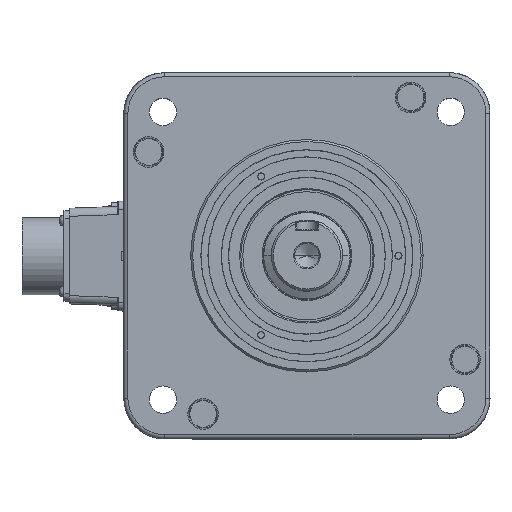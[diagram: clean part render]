
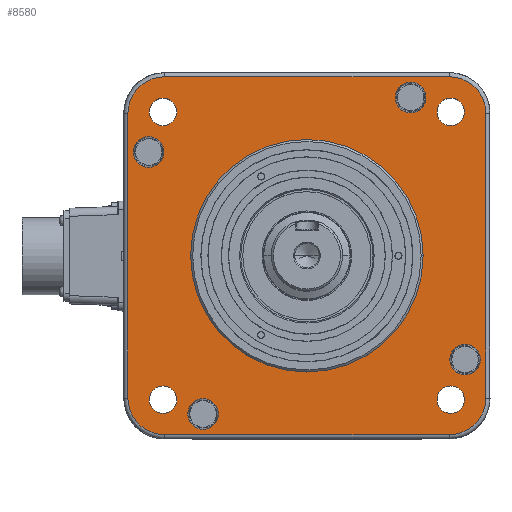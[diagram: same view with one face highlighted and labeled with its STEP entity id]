
A CAD part, top view. The second image highlights one B-rep face of the part: STEP entity #8580.
In plain terms, the highlighted planar face has unit normal (0, 0, 1).
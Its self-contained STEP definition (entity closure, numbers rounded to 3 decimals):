
#85=CARTESIAN_POINT('',(-69.969,69.969,20.));
#86=DIRECTION('',(0.,0.,-1.));
#87=DIRECTION('',(-1.,0.,0.));
#88=AXIS2_PLACEMENT_3D('',#85,#86,#87);
#90=CARTESIAN_POINT('',(69.969,69.969,20.));
#91=DIRECTION('',(0.,0.,-1.));
#92=DIRECTION('',(0.,1.,0.));
#93=AXIS2_PLACEMENT_3D('',#90,#91,#92);
#95=CARTESIAN_POINT('',(69.969,-69.969,20.));
#96=DIRECTION('',(0.,0.,-1.));
#97=DIRECTION('',(1.,0.,0.));
#98=AXIS2_PLACEMENT_3D('',#95,#96,#97);
#100=CARTESIAN_POINT('',(-69.969,-69.969,20.));
#101=DIRECTION('',(0.,0.,-1.));
#102=DIRECTION('',(0.,-1.,0.));
#103=AXIS2_PLACEMENT_3D('',#100,#101,#102);
#105=CARTESIAN_POINT('',(0.,0.,20.));
#106=DIRECTION('',(0.,0.,1.));
#107=DIRECTION('',(-1.,0.,0.));
#108=AXIS2_PLACEMENT_3D('',#105,#106,#107);
#110=CARTESIAN_POINT('',(0.,0.,20.));
#111=DIRECTION('',(0.,0.,1.));
#112=DIRECTION('',(1.,0.,0.));
#113=AXIS2_PLACEMENT_3D('',#110,#111,#112);
#115=CARTESIAN_POINT('',(-70.711,70.711,20.));
#116=DIRECTION('',(0.,0.,1.));
#117=DIRECTION('',(1.,0.,0.));
#118=AXIS2_PLACEMENT_3D('',#115,#116,#117);
#120=CARTESIAN_POINT('',(-70.711,70.711,20.));
#121=DIRECTION('',(0.,0.,1.));
#122=DIRECTION('',(-1.,0.,0.));
#123=AXIS2_PLACEMENT_3D('',#120,#121,#122);
#125=CARTESIAN_POINT('',(70.711,70.711,20.));
#126=DIRECTION('',(0.,0.,1.));
#127=DIRECTION('',(1.,0.,0.));
#128=AXIS2_PLACEMENT_3D('',#125,#126,#127);
#130=CARTESIAN_POINT('',(70.711,70.711,20.));
#131=DIRECTION('',(0.,0.,1.));
#132=DIRECTION('',(-1.,0.,0.));
#133=AXIS2_PLACEMENT_3D('',#130,#131,#132);
#135=CARTESIAN_POINT('',(70.711,-70.711,20.));
#136=DIRECTION('',(0.,0.,1.));
#137=DIRECTION('',(1.,0.,0.));
#138=AXIS2_PLACEMENT_3D('',#135,#136,#137);
#140=CARTESIAN_POINT('',(70.711,-70.711,20.));
#141=DIRECTION('',(0.,0.,1.));
#142=DIRECTION('',(-1.,0.,0.));
#143=AXIS2_PLACEMENT_3D('',#140,#141,#142);
#145=CARTESIAN_POINT('',(-70.711,-70.711,20.));
#146=DIRECTION('',(0.,0.,1.));
#147=DIRECTION('',(1.,0.,0.));
#148=AXIS2_PLACEMENT_3D('',#145,#146,#147);
#150=CARTESIAN_POINT('',(-70.711,-70.711,20.));
#151=DIRECTION('',(0.,0.,1.));
#152=DIRECTION('',(-1.,0.,0.));
#153=AXIS2_PLACEMENT_3D('',#150,#151,#152);
#155=CARTESIAN_POINT('',(51.,77.769,20.));
#156=DIRECTION('',(0.,0.,1.));
#157=DIRECTION('',(1.,0.,0.));
#158=AXIS2_PLACEMENT_3D('',#155,#156,#157);
#160=CARTESIAN_POINT('',(51.,77.769,20.));
#161=DIRECTION('',(0.,0.,1.));
#162=DIRECTION('',(-1.,0.,0.));
#163=AXIS2_PLACEMENT_3D('',#160,#161,#162);
#165=CARTESIAN_POINT('',(-77.769,51.,20.));
#166=DIRECTION('',(0.,0.,1.));
#167=DIRECTION('',(1.,0.,0.));
#168=AXIS2_PLACEMENT_3D('',#165,#166,#167);
#170=CARTESIAN_POINT('',(-77.769,51.,20.));
#171=DIRECTION('',(0.,0.,1.));
#172=DIRECTION('',(-1.,0.,0.));
#173=AXIS2_PLACEMENT_3D('',#170,#171,#172);
#175=CARTESIAN_POINT('',(-51.,-77.769,20.));
#176=DIRECTION('',(0.,0.,1.));
#177=DIRECTION('',(1.,0.,0.));
#178=AXIS2_PLACEMENT_3D('',#175,#176,#177);
#180=CARTESIAN_POINT('',(-51.,-77.769,20.));
#181=DIRECTION('',(0.,0.,1.));
#182=DIRECTION('',(-1.,0.,0.));
#183=AXIS2_PLACEMENT_3D('',#180,#181,#182);
#185=CARTESIAN_POINT('',(77.769,-51.,20.));
#186=DIRECTION('',(0.,0.,1.));
#187=DIRECTION('',(1.,0.,0.));
#188=AXIS2_PLACEMENT_3D('',#185,#186,#187);
#190=CARTESIAN_POINT('',(77.769,-51.,20.));
#191=DIRECTION('',(0.,0.,1.));
#192=DIRECTION('',(-1.,0.,0.));
#193=AXIS2_PLACEMENT_3D('',#190,#191,#192);
#195=DIRECTION('',(0.,-1.,0.));
#196=VECTOR('',#195,139.937);
#197=CARTESIAN_POINT('',(-87.969,69.969,20.));
#198=LINE('',#197,#196);
#798=DIRECTION('',(1.,0.,0.));
#799=VECTOR('',#798,139.937);
#800=CARTESIAN_POINT('',(-69.969,-87.969,20.));
#801=LINE('',#800,#799);
#1420=DIRECTION('',(0.,1.,0.));
#1421=VECTOR('',#1420,139.937);
#1422=CARTESIAN_POINT('',(87.969,-69.969,20.));
#1423=LINE('',#1422,#1421);
#1438=DIRECTION('',(-1.,0.,0.));
#1439=VECTOR('',#1438,139.937);
#1440=CARTESIAN_POINT('',(69.969,87.969,20.));
#1441=LINE('',#1440,#1439);
#6746=CARTESIAN_POINT('',(57.15,0.,20.));
#6747=VERTEX_POINT('',#6746);
#6748=CARTESIAN_POINT('',(-57.15,0.,20.));
#6749=VERTEX_POINT('',#6748);
#6750=CARTESIAN_POINT('',(-87.969,69.969,20.));
#6751=CARTESIAN_POINT('',(-69.969,87.969,20.));
#6752=VERTEX_POINT('',#6750);
#6753=VERTEX_POINT('',#6751);
#6754=CARTESIAN_POINT('',(69.969,87.969,20.));
#6755=CARTESIAN_POINT('',(87.969,69.969,20.));
#6756=VERTEX_POINT('',#6754);
#6757=VERTEX_POINT('',#6755);
#6758=CARTESIAN_POINT('',(87.969,-69.969,20.));
#6759=CARTESIAN_POINT('',(69.969,-87.969,20.));
#6760=VERTEX_POINT('',#6758);
#6761=VERTEX_POINT('',#6759);
#6762=CARTESIAN_POINT('',(-69.969,-87.969,
20.));
#6763=CARTESIAN_POINT('',(-87.969,-69.969,
20.));
#6764=VERTEX_POINT('',#6762);
#6765=VERTEX_POINT('',#6763);
#6766=CARTESIAN_POINT('',(-63.961,70.711,20.));
#6767=CARTESIAN_POINT('',(-77.461,70.711,20.));
#6768=VERTEX_POINT('',#6766);
#6769=VERTEX_POINT('',#6767);
#6770=CARTESIAN_POINT('',(77.461,70.711,20.));
#6771=CARTESIAN_POINT('',(63.961,70.711,20.));
#6772=VERTEX_POINT('',#6770);
#6773=VERTEX_POINT('',#6771);
#6774=CARTESIAN_POINT('',(77.461,-70.711,20.));
#6775=CARTESIAN_POINT('',(63.961,-70.711,20.));
#6776=VERTEX_POINT('',#6774);
#6777=VERTEX_POINT('',#6775);
#6778=CARTESIAN_POINT('',(-63.961,-70.711,20.));
#6779=CARTESIAN_POINT('',(-77.461,-70.711,20.));
#6780=VERTEX_POINT('',#6778);
#6781=VERTEX_POINT('',#6779);
#6782=CARTESIAN_POINT('',(58.524,77.769,20.));
#6783=CARTESIAN_POINT('',(43.476,77.769,20.));
#6784=VERTEX_POINT('',#6782);
#6785=VERTEX_POINT('',#6783);
#6786=CARTESIAN_POINT('',(-70.245,51.,20.));
#6787=CARTESIAN_POINT('',(-85.293,51.,20.));
#6788=VERTEX_POINT('',#6786);
#6789=VERTEX_POINT('',#6787);
#6790=CARTESIAN_POINT('',(-43.476,-77.769,20.));
#6791=CARTESIAN_POINT('',(-58.524,-77.769,20.));
#6792=VERTEX_POINT('',#6790);
#6793=VERTEX_POINT('',#6791);
#6794=CARTESIAN_POINT('',(85.293,-51.,20.));
#6795=CARTESIAN_POINT('',(70.245,-51.,20.));
#6796=VERTEX_POINT('',#6794);
#6797=VERTEX_POINT('',#6795);
#8505=CARTESIAN_POINT('',(0.,0.,20.));
#8506=DIRECTION('',(0.,0.,1.));
#8507=DIRECTION('',(-1.,0.,0.));
#8508=AXIS2_PLACEMENT_3D('',#8505,#8506,#8507);
#8509=PLANE('',#8508);
#8511=ORIENTED_EDGE('',*,*,#8510,.F.);
#8513=ORIENTED_EDGE('',*,*,#8512,.T.);
#8515=ORIENTED_EDGE('',*,*,#8514,.F.);
#8517=ORIENTED_EDGE('',*,*,#8516,.T.);
#8519=ORIENTED_EDGE('',*,*,#8518,.F.);
#8521=ORIENTED_EDGE('',*,*,#8520,.T.);
#8523=ORIENTED_EDGE('',*,*,#8522,.F.);
#8525=ORIENTED_EDGE('',*,*,#8524,.T.);
#8526=EDGE_LOOP('',(#8511,#8513,#8515,#8517,#8519,#8521,#8523,#8525));
#8527=FACE_OUTER_BOUND('',#8526,.F.);
#8528=ORIENTED_EDGE('',*,*,#8497,.T.);
#8529=ORIENTED_EDGE('',*,*,#8486,.T.);
#8530=EDGE_LOOP('',(#8528,#8529));
#8531=FACE_BOUND('',#8530,.F.);
#8533=ORIENTED_EDGE('',*,*,#8532,.T.);
#8535=ORIENTED_EDGE('',*,*,#8534,.T.);
#8536=EDGE_LOOP('',(#8533,#8535));
#8537=FACE_BOUND('',#8536,.F.);
#8539=ORIENTED_EDGE('',*,*,#8538,.T.);
#8541=ORIENTED_EDGE('',*,*,#8540,.T.);
#8542=EDGE_LOOP('',(#8539,#8541));
#8543=FACE_BOUND('',#8542,.F.);
#8545=ORIENTED_EDGE('',*,*,#8544,.T.);
#8547=ORIENTED_EDGE('',*,*,#8546,.T.);
#8548=EDGE_LOOP('',(#8545,#8547));
#8549=FACE_BOUND('',#8548,.F.);
#8551=ORIENTED_EDGE('',*,*,#8550,.T.);
#8553=ORIENTED_EDGE('',*,*,#8552,.T.);
#8554=EDGE_LOOP('',(#8551,#8553));
#8555=FACE_BOUND('',#8554,.F.);
#8557=ORIENTED_EDGE('',*,*,#8556,.T.);
#8559=ORIENTED_EDGE('',*,*,#8558,.T.);
#8560=EDGE_LOOP('',(#8557,#8559));
#8561=FACE_BOUND('',#8560,.F.);
#8563=ORIENTED_EDGE('',*,*,#8562,.T.);
#8565=ORIENTED_EDGE('',*,*,#8564,.T.);
#8566=EDGE_LOOP('',(#8563,#8565));
#8567=FACE_BOUND('',#8566,.F.);
#8569=ORIENTED_EDGE('',*,*,#8568,.T.);
#8571=ORIENTED_EDGE('',*,*,#8570,.T.);
#8572=EDGE_LOOP('',(#8569,#8571));
#8573=FACE_BOUND('',#8572,.F.);
#8575=ORIENTED_EDGE('',*,*,#8574,.T.);
#8577=ORIENTED_EDGE('',*,*,#8576,.T.);
#8578=EDGE_LOOP('',(#8575,#8577));
#8579=FACE_BOUND('',#8578,.F.);
#89=CIRCLE('',#88,18.);
#94=CIRCLE('',#93,18.);
#99=CIRCLE('',#98,18.);
#104=CIRCLE('',#103,18.);
#109=CIRCLE('',#108,57.15);
#114=CIRCLE('',#113,57.15);
#119=CIRCLE('',#118,6.75);
#124=CIRCLE('',#123,6.75);
#129=CIRCLE('',#128,6.75);
#134=CIRCLE('',#133,6.75);
#139=CIRCLE('',#138,6.75);
#144=CIRCLE('',#143,6.75);
#149=CIRCLE('',#148,6.75);
#154=CIRCLE('',#153,6.75);
#159=CIRCLE('',#158,7.524);
#164=CIRCLE('',#163,7.524);
#169=CIRCLE('',#168,7.524);
#174=CIRCLE('',#173,7.524);
#179=CIRCLE('',#178,7.524);
#184=CIRCLE('',#183,7.524);
#189=CIRCLE('',#188,7.524);
#194=CIRCLE('',#193,7.524);
#8486=EDGE_CURVE('',#6747,#6749,#114,.T.);
#8497=EDGE_CURVE('',#6749,#6747,#109,.T.);
#8510=EDGE_CURVE('',#6752,#6765,#198,.T.);
#8512=EDGE_CURVE('',#6752,#6753,#89,.T.);
#8514=EDGE_CURVE('',#6756,#6753,#1441,.T.);
#8516=EDGE_CURVE('',#6756,#6757,#94,.T.);
#8518=EDGE_CURVE('',#6760,#6757,#1423,.T.);
#8520=EDGE_CURVE('',#6760,#6761,#99,.T.);
#8522=EDGE_CURVE('',#6764,#6761,#801,.T.);
#8524=EDGE_CURVE('',#6764,#6765,#104,.T.);
#8532=EDGE_CURVE('',#6768,#6769,#119,.T.);
#8534=EDGE_CURVE('',#6769,#6768,#124,.T.);
#8538=EDGE_CURVE('',#6772,#6773,#129,.T.);
#8540=EDGE_CURVE('',#6773,#6772,#134,.T.);
#8544=EDGE_CURVE('',#6776,#6777,#139,.T.);
#8546=EDGE_CURVE('',#6777,#6776,#144,.T.);
#8550=EDGE_CURVE('',#6780,#6781,#149,.T.);
#8552=EDGE_CURVE('',#6781,#6780,#154,.T.);
#8556=EDGE_CURVE('',#6784,#6785,#159,.T.);
#8558=EDGE_CURVE('',#6785,#6784,#164,.T.);
#8562=EDGE_CURVE('',#6788,#6789,#169,.T.);
#8564=EDGE_CURVE('',#6789,#6788,#174,.T.);
#8568=EDGE_CURVE('',#6792,#6793,#179,.T.);
#8570=EDGE_CURVE('',#6793,#6792,#184,.T.);
#8574=EDGE_CURVE('',#6796,#6797,#189,.T.);
#8576=EDGE_CURVE('',#6797,#6796,#194,.T.);
#8580=ADVANCED_FACE('',(#8527,#8531,#8537,#8543,#8549,#8555,#8561,#8567,#8573,
#8579),#8509,.T.);
